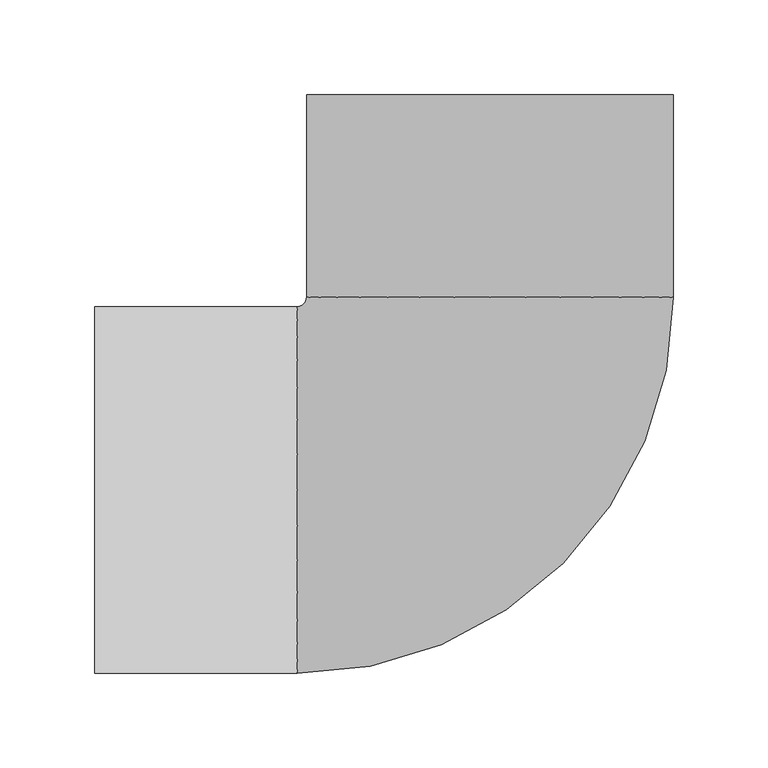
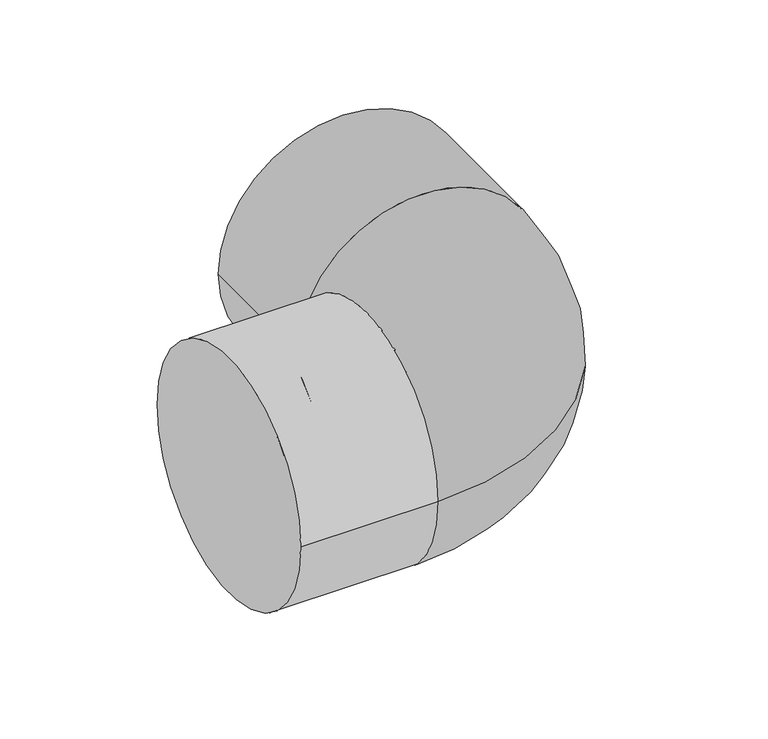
"""IFC4 building model written with IfcOpenShell, lengths in millimetres: pipe fitting geometry, 01051001 : Joelho a 90º."""

from ifc_helpers import new_model, si_unit, point, frame, origin, place, context, project, spatial, circle_curve, ellipse_curve, trimmed, source, transform, mapped, element, save
from ifc_brep_helpers import plane_surface, cylinder_surface, revolved_surface, advanced_brep


def pipe_fitting_431b0fb2(model_context):
    return source(origin(), model_context, "Body", "AdvancedBrep", [
        advanced_brep(
        [(-102.0, -96.9, 0.0), (96.9, 102.0, 0.0), (-96.9, 102.0, 0.0), (-102.0, 96.9, 0.0), (-96.9, 209.0, 0.0), (96.9, 209.0, 0.0), (-209.0, 96.9, 0.0), (-209.0, -96.9, 0.0)],
        [
            (0, 1, circle_curve(frame((-102.0, 102.0, 0.0), z_axis=(0.0, 0.0, 1.0), x_axis=(1.0, 0.0, 0.0)), 198.9)),
            (1, 2, circle_curve(frame((0.0, 102.0, 0.0), z_axis=(0.0, -1.0, 0.0), x_axis=(1.0, 0.0, 0.0)), 96.9)),
            (2, 3, circle_curve(frame((-102.0, 102.0, 0.0), z_axis=(0.0, 0.0, -1.0), x_axis=(1.0, 0.0, 0.0)), 5.1)),
            (3, 0, circle_curve(frame((-102.0, 0.0, 0.0), z_axis=(1.0, 0.0, 0.0), x_axis=(0.0, -1.0, 0.0)), 96.9)),
            (2, 1, circle_curve(frame((0.0, 102.0, 0.0), z_axis=(0.0, -1.0, 0.0), x_axis=(1.0, 0.0, 0.0)), 96.9)),
            (0, 3, circle_curve(frame((-102.0, 0.0, 0.0), z_axis=(1.0, 0.0, 0.0), x_axis=(0.0, -1.0, 0.0)), 96.9)),
            (4, 5, circle_curve(frame((0.0, 209.0, 0.0), z_axis=(0.0, 1.0, 0.0), x_axis=(1.0, 0.0, 0.0)), 96.9)),
            (5, 4, circle_curve(frame((0.0, 209.0, 0.0), z_axis=(0.0, 1.0, 0.0), x_axis=(1.0, 0.0, 0.0)), 96.9)),
            (4, 2),
            (1, 5),
            (6, 7, circle_curve(frame((-209.0, 0.0, 0.0), z_axis=(-1.0, 0.0, 0.0), x_axis=(0.0, -1.0, 0.0)), 96.9)),
            (7, 6, circle_curve(frame((-209.0, 0.0, 0.0), z_axis=(-1.0, 0.0, 0.0), x_axis=(0.0, -1.0, 0.0)), 96.9)),
            (3, 6),
            (7, 0),
        ],
        [
            revolved_surface(trimmed(ellipse_curve(frame((0.0, 102.0, 0.0), z_axis=(0.0, 1.0, 0.0), x_axis=(1.0, 0.0, 0.0)), 96.9, 96.9), [point((-96.9, 102.0, 0.0))], [point((96.9, 102.0, 0.0))], True, "CARTESIAN"), (-102.0, 102.0, 0.0), (0.0, 0.0, -1.0)),
            revolved_surface(trimmed(ellipse_curve(frame((0.0, 102.0, 0.0), z_axis=(0.0, 1.0, 0.0), x_axis=(1.0, 0.0, 0.0)), 96.9, 96.9), [point((96.9, 102.0, 0.0))], [point((-96.9, 102.0, 0.0))], True, "CARTESIAN"), (-102.0, 102.0, 0.0), (0.0, 0.0, -1.0)),
            plane_surface(frame((0.0, 209.0, 0.0), z_axis=(0.0, 1.0, 0.0), x_axis=(0.0, 0.0, 1.0))),
            cylinder_surface(frame((0.0, 209.0, 0.0), z_axis=(0.0, 1.0, 0.0), x_axis=(1.0, 0.0, 0.0)), 96.9),
            plane_surface(frame((-209.0, 0.0, 0.0), z_axis=(-1.0, 0.0, 0.0), x_axis=(0.0, 0.0, 1.0))),
            cylinder_surface(frame((-102.0, 0.0, 0.0), z_axis=(1.0, 0.0, 0.0), x_axis=(0.0, -1.0, 0.0)), 96.9),
        ],
        [
            (0, [[1, 2, 3, 4]]),
            (1, [[-3, 5, -1, 6]]),
            (2, [[7, 8]]),
            (3, [[-7, 9, -2, 10]]),
            (3, [[-8, -10, -5, -9]]),
            (4, [[11, 12]]),
            (5, [[-4, 13, -12, 14]]),
            (5, [[-6, -14, -11, -13]]),
        ],
    ),
    ])


if __name__ == "__main__":
    model = new_model("IFC4")
    model_context = context("Model", 3, world=origin())
    ifc_project = project(units=[si_unit("LENGTHUNIT", "METRE", prefix="MILLI")], contexts=[model_context])
    site = spatial("IfcSite", under=ifc_project)
    building = spatial("IfcBuilding", under=site)
    placement = place(None, origin())
    pipe_fitting_shape = pipe_fitting_431b0fb2(model_context)
    element("IfcPipeFitting", 1, ObjectType="01051001 : Joelho a 90º", at=placement, inside=building, context=model_context, shape_type="MappedRepresentation", body=[
        mapped(pipe_fitting_shape, transform((0.0, 0.0, 0.0), x_axis=(1.0, 0.0, 0.0), y_axis=(0.0, 1.0, 0.0), z_axis=(0.0, 0.0, 1.0))),
    ])
    save(model, "model.ifc")
